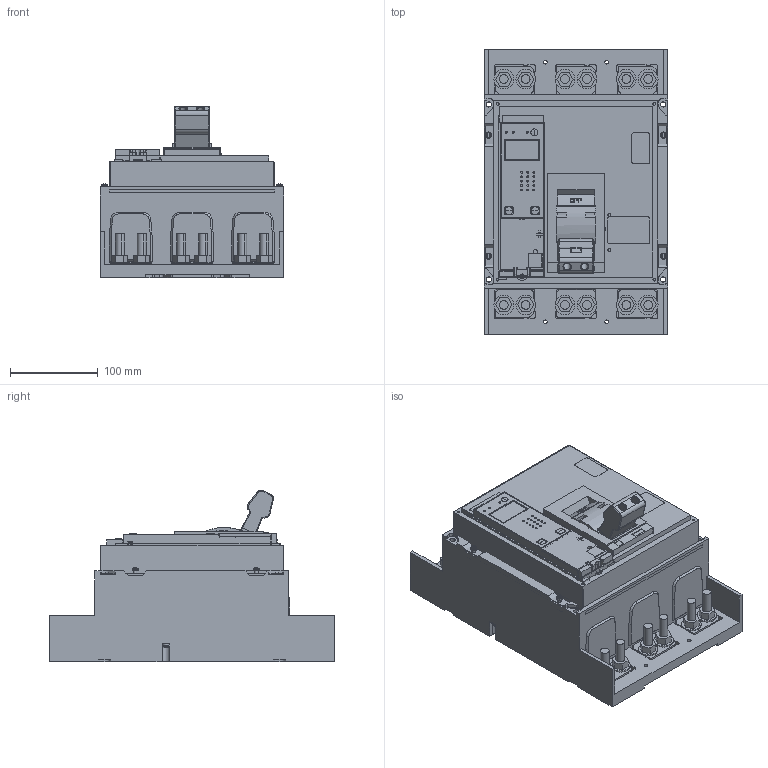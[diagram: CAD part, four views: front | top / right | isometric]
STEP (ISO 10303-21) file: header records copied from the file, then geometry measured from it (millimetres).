
FILE_DESCRIPTION((''),'2;1');
FILE_NAME('1649236264233_ASM','2022-04-06T14:41:29',('SESA621925'),('Schneider-Electric'),'CREO PARAMETRIC BY PTC INC, 2019471','CREO PARAMETRIC BY PTC INC, 2019471','');
FILE_SCHEMA(('AP242_MANAGED_MODEL_BASED_3D_ENGINEERING_MIM_LF { 1 0 10303 442 1 1 4 }'));
Products named in the file (12): EMPTYNODE_1649236264277_ASM; C063N320FM; C063N320FM-3D_ASM; COVER-ASSY-C063N320FM_C_1; COVER-ASSY-C063N320FM-3D_ASM; HANDLE-ASSY-C063N320FM; HANDLE-ASSY-C063N320FM-3D_ASM; 35060; 0444320800; 35060_ASM; 35060-3D_ASM; 1649236264233_ASM
Assembly tree (11 placements, depth 4):
  1649236264233_ASM
    EMPTYNODE_1649236264277_ASM
    C063N320FM-3D_ASM
      C063N320FM
    COVER-ASSY-C063N320FM-3D_ASM
      COVER-ASSY-C063N320FM_C_1
    HANDLE-ASSY-C063N320FM-3D_ASM
      HANDLE-ASSY-C063N320FM
    35060-3D_ASM
      35060_ASM
        35060
        0444320800
Bounding box: 210 x 326.53 x 196.18 mm (x, y, z)
Volume: 5439793.7 mm3; surface area: 557174.6 mm2
Topology: 11 solids, 13 shells, 2466 faces, 6766 edges, 4489 vertices
Faces by surface type: plane 1754, cylinder 580, bspline 42, torus 38, extrusion 26, cone 20, sphere 6
Entity records: 113969 total; most frequent: CARTESIAN_POINT 17169, ORIENTED_EDGE 13458, DIRECTION 12804, PRESENTATION_STYLE_ASSIGNMENT 7749, STYLED_ITEM 6797, CURVE_STYLE 6771, EDGE_CURVE 6729, VECTOR 5100
